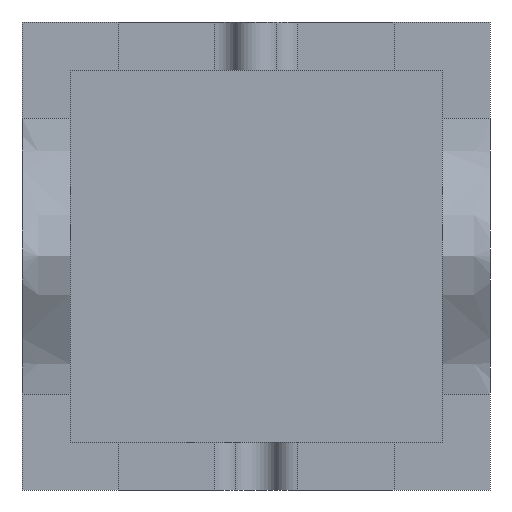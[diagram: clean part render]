
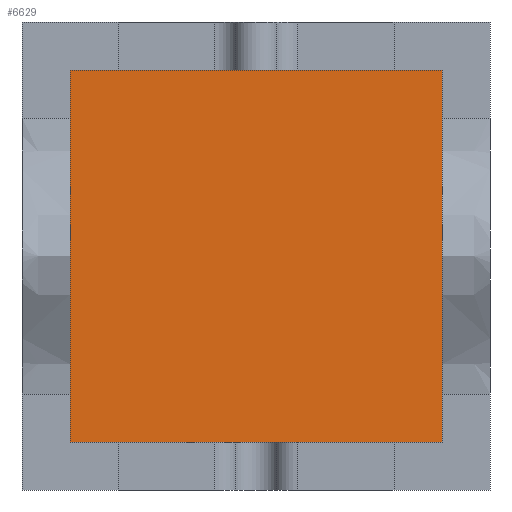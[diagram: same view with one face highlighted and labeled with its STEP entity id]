
A CAD part, front view. The second image highlights one B-rep face of the part: STEP entity #6629.
In plain terms, the highlighted planar face has unit normal (0, -1, 0).
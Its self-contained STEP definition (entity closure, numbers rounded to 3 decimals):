
#6503=CARTESIAN_POINT('Vertex',(-20.,-30.,-20.)) ;
#6508=CARTESIAN_POINT('Line Origine',(-20.,-30.,57.5)) ;
#6512=CARTESIAN_POINT('Vertex',(-20.,-30.,135.)) ;
#6539=CARTESIAN_POINT('Line Origine',(57.5,-30.,135.)) ;
#6543=CARTESIAN_POINT('Vertex',(135.,-30.,135.)) ;
#6570=CARTESIAN_POINT('Line Origine',(135.,-30.,57.5)) ;
#6574=CARTESIAN_POINT('Vertex',(135.,-30.,-20.)) ;
#6601=CARTESIAN_POINT('Line Origine',(57.5,-30.,-20.)) ;
#6618=CARTESIAN_POINT('Axis2P3D Location',(0.,-30.,0.)) ;
#6509=DIRECTION('Vector Direction',(0.,0.,-1.)) ;
#6540=DIRECTION('Vector Direction',(1.,0.,0.)) ;
#6571=DIRECTION('Vector Direction',(0.,0.,1.)) ;
#6602=DIRECTION('Vector Direction',(-1.,0.,0.)) ;
#6619=DIRECTION('Axis2P3D Direction',(0.,1.,0.)) ;
#6620=DIRECTION('Axis2P3D XDirection',(-1.,0.,0.)) ;
#6621=AXIS2_PLACEMENT_3D('Plane Axis2P3D',#6618,#6619,#6620) ;
#6624=ORIENTED_EDGE('',*,*,#6605,.F.) ;
#6625=ORIENTED_EDGE('',*,*,#6576,.F.) ;
#6626=ORIENTED_EDGE('',*,*,#6545,.F.) ;
#6627=ORIENTED_EDGE('',*,*,#6514,.F.) ;
#6510=VECTOR('Line Direction',#6509,1.) ;
#6541=VECTOR('Line Direction',#6540,1.) ;
#6572=VECTOR('Line Direction',#6571,1.) ;
#6603=VECTOR('Line Direction',#6602,1.) ;
#6629=ADVANCED_FACE('Cavity-molde',(#6628),#6622,.F.) ;
#6514=EDGE_CURVE('',#6504,#6513,#6511,.F.) ;
#6545=EDGE_CURVE('',#6513,#6544,#6542,.T.) ;
#6576=EDGE_CURVE('',#6544,#6575,#6573,.F.) ;
#6605=EDGE_CURVE('',#6575,#6504,#6604,.T.) ;
#6623=EDGE_LOOP('',(#6624,#6625,#6626,#6627)) ;
#6628=FACE_OUTER_BOUND('',#6623,.T.) ;
#6511=LINE('Line',#6508,#6510) ;
#6542=LINE('Line',#6539,#6541) ;
#6573=LINE('Line',#6570,#6572) ;
#6604=LINE('Line',#6601,#6603) ;
#6622=PLANE('',#6621) ;
#6504=VERTEX_POINT('',#6503) ;
#6513=VERTEX_POINT('',#6512) ;
#6544=VERTEX_POINT('',#6543) ;
#6575=VERTEX_POINT('',#6574) ;
